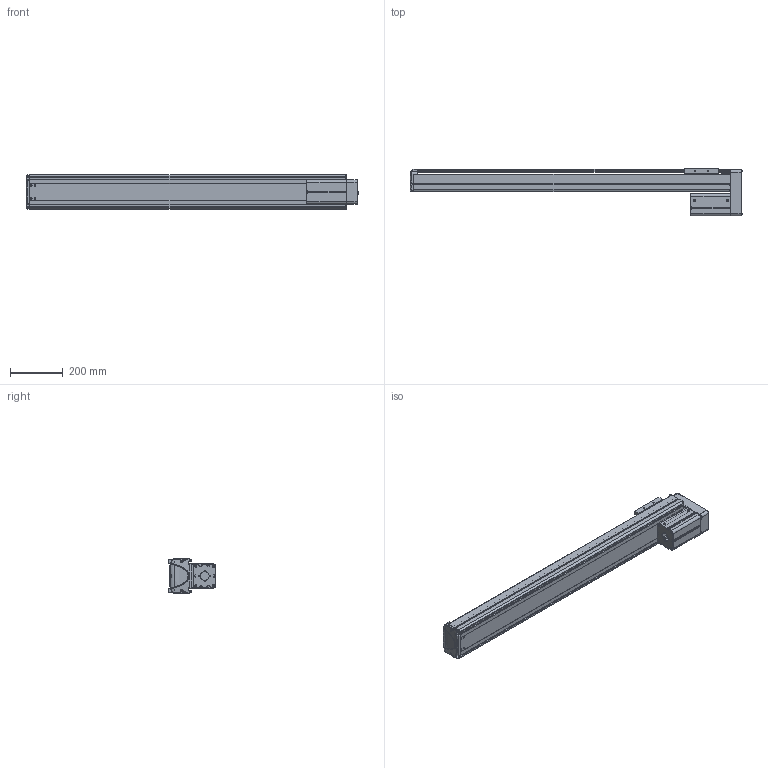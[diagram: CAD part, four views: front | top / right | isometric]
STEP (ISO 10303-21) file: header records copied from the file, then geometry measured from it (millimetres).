
FILE_DESCRIPTION((''),'2;1');
FILE_NAME('BE30E-UU-M_N-A0_IGS_PRT','2017-06-17T',(' '),(''),'PRO/ENGINEER BY PARAMETRIC TECHNOLOGY CORPORATION, 2015030','PRO/ENGINEER BY PARAMETRIC TECHNOLOGY CORPORATION, 2015030','');
FILE_SCHEMA(('CONFIG_CONTROL_DESIGN'));
Length unit declared in the file: millimetre
Products named in the file (1): BE30E-UU-M_N-A0_IGS_PRT
Bounding box: 1261.9 x 180 x 130 mm (x, y, z)
Volume: 4096859.2 mm3; surface area: 1730076.3 mm2
Topology: 2 solids, 128 shells, 2066 faces, 5587 edges, 3630 vertices
Faces by surface type: plane 997, cylinder 875, cone 105, torus 37, bspline 28, sphere 24
Entity records: 67075 total; most frequent: CARTESIAN_POINT 14222, DIRECTION 11164, ORIENTED_EDGE 10611, EDGE_CURVE 5549, AXIS2_PLACEMENT_3D 3943, VERTEX_POINT 3630, VECTOR 3278, LINE 3278
